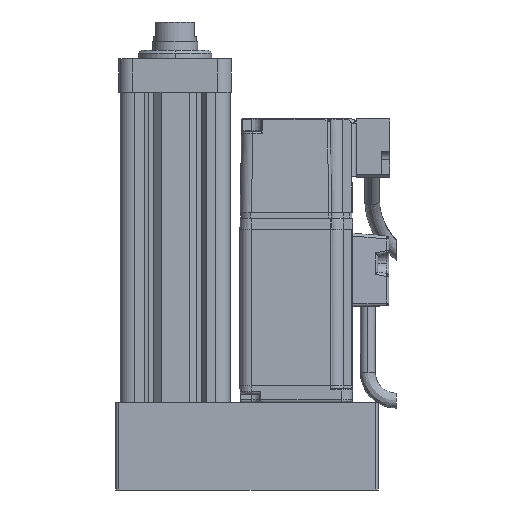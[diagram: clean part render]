
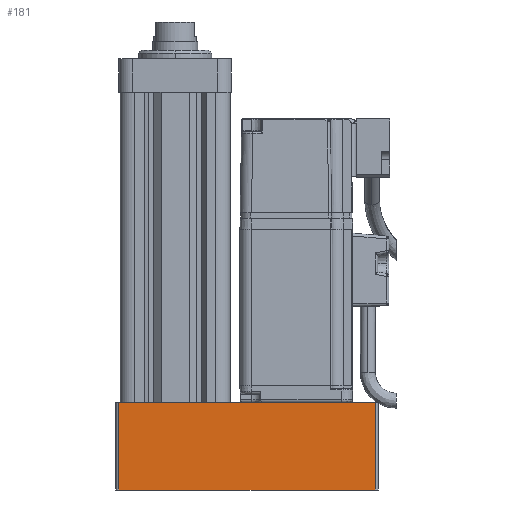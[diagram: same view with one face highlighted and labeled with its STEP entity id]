
A CAD part, left-side view. The second image highlights one B-rep face of the part: STEP entity #181.
In plain terms, the highlighted planar face has unit normal (-1, 0, 0) as drawn and (0, 1, 0) by its records, which use the part's own axes.
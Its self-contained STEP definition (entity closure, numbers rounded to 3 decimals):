
#77 = VECTOR ( 'NONE', #17216, 1000. ) ;
#181 = ADVANCED_FACE ( 'NONE', ( #17306 ), #2899, .F. ) ;
#393 = LINE ( 'NONE', #1955, #77 ) ;
#585 = VERTEX_POINT ( 'NONE', #1069 ) ;
#971 = CARTESIAN_POINT ( 'NONE',  ( 45.5, 24., 31. ) ) ;
#1069 = CARTESIAN_POINT ( 'NONE',  ( -45.5, 24., 0. ) ) ;
#1634 = VERTEX_POINT ( 'NONE', #23340 ) ;
#1955 = CARTESIAN_POINT ( 'NONE',  ( -46.5, 24., 31. ) ) ;
#2096 = ORIENTED_EDGE ( 'NONE', *, *, #22870, .T. ) ;
#2120 = ORIENTED_EDGE ( 'NONE', *, *, #22263, .T. ) ;
#2899 = PLANE ( 'NONE',  #13611 ) ;
#8264 = VECTOR ( 'NONE', #23012, 1000. ) ;
#8534 = LINE ( 'NONE', #971, #13590 ) ;
#9680 = ORIENTED_EDGE ( 'NONE', *, *, #24462, .F. ) ;
#10242 = ORIENTED_EDGE ( 'NONE', *, *, #10765, .T. ) ;
#10765 = EDGE_CURVE ( 'NONE', #585, #11967, #13428, .T. ) ;
#11967 = VERTEX_POINT ( 'NONE', #21371 ) ;
#13319 = LINE ( 'NONE', #13586, #8264 ) ;
#13428 = LINE ( 'NONE', #20551, #20038 ) ;
#13586 = CARTESIAN_POINT ( 'NONE',  ( -46.5, 24., 0. ) ) ;
#13590 = VECTOR ( 'NONE', #13997, 1000. ) ;
#13611 = AXIS2_PLACEMENT_3D ( 'NONE', #19695, #15996, #21825 ) ;
#13997 = DIRECTION ( 'NONE',  ( 0., 0., -1. ) ) ;
#15996 = DIRECTION ( 'NONE',  ( 0., -1., 0. ) ) ;
#17216 = DIRECTION ( 'NONE',  ( -1., 0., 0. ) ) ;
#17306 = FACE_OUTER_BOUND ( 'NONE', #19507, .T. ) ;
#19507 = EDGE_LOOP ( 'NONE', ( #9680, #2096, #2120, #10242 ) ) ;
#19695 = CARTESIAN_POINT ( 'NONE',  ( -46.5, 24., 31. ) ) ;
#19896 = CARTESIAN_POINT ( 'NONE',  ( 45.5, 24., 0. ) ) ;
#20038 = VECTOR ( 'NONE', #20879, 1000. ) ;
#20551 = CARTESIAN_POINT ( 'NONE',  ( -45.5, 24., 31. ) ) ;
#20879 = DIRECTION ( 'NONE',  ( 0., 0., 1. ) ) ;
#21371 = CARTESIAN_POINT ( 'NONE',  ( -45.5, 24., 31. ) ) ;
#21825 = DIRECTION ( 'NONE',  ( 0., 0., -1. ) ) ;
#22263 = EDGE_CURVE ( 'NONE', #24557, #585, #13319, .T. ) ;
#22870 = EDGE_CURVE ( 'NONE', #1634, #24557, #8534, .T. ) ;
#23012 = DIRECTION ( 'NONE',  ( -1., 0., 0. ) ) ;
#23340 = CARTESIAN_POINT ( 'NONE',  ( 45.5, 24., 31. ) ) ;
#24462 = EDGE_CURVE ( 'NONE', #1634, #11967, #393, .T. ) ;
#24557 = VERTEX_POINT ( 'NONE', #19896 ) ;
